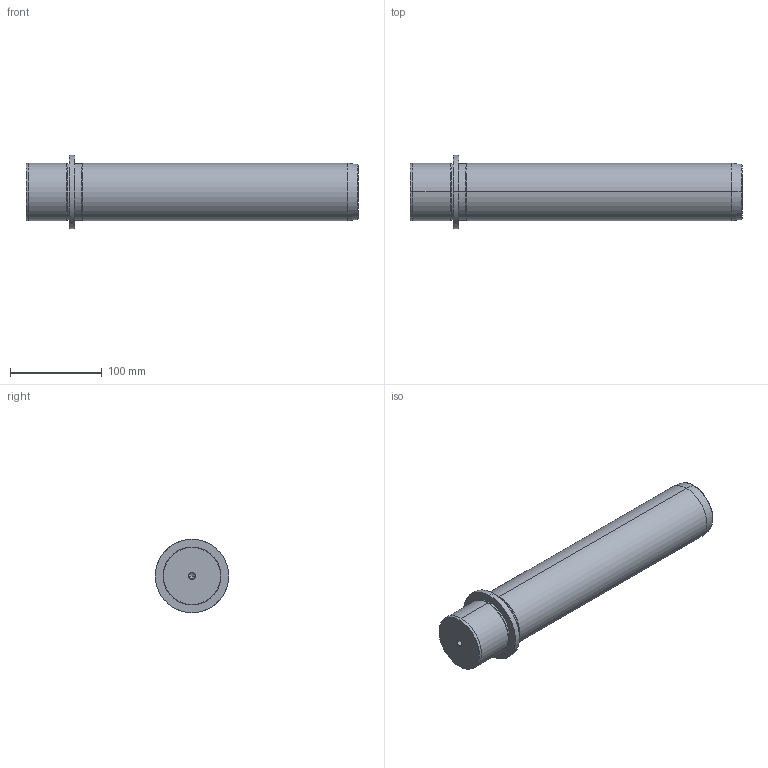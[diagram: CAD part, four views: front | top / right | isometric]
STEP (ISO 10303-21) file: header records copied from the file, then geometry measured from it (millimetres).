
FILE_DESCRIPTION(('CATIA V5 STEP Exchange'),'2;1');
FILE_NAME('C:\Users\Utente\Desktop\IO LAVORO\3D X SITO CF\X SITO\718\718-63x315.stp','2021-01-02T07:41:39+00:00',('none'),('none'),'CATIA Version 5 Release 20 GA (IN-10)','CATIA V5 STEP AP203','none');
FILE_SCHEMA(('CONFIG_CONTROL_DESIGN'));
Length unit declared in the file: millimetre
Products named in the file (1): 718-63x315
Bounding box: 362 x 80 x 80 mm (x, y, z)
Volume: 1135168.1 mm3; surface area: 82760.8 mm2
Topology: 1 solids, 1 shells, 36 faces, 100 edges, 66 vertices
Faces by surface type: cone 16, cylinder 14, plane 4, torus 2
Entity records: 1291 total; most frequent: CARTESIAN_POINT 362, ORIENTED_EDGE 192, DIRECTION 157, EDGE_CURVE 96, AXIS2_PLACEMENT_3D 92, VERTEX_POINT 66, CIRCLE 55, EDGE_LOOP 40
